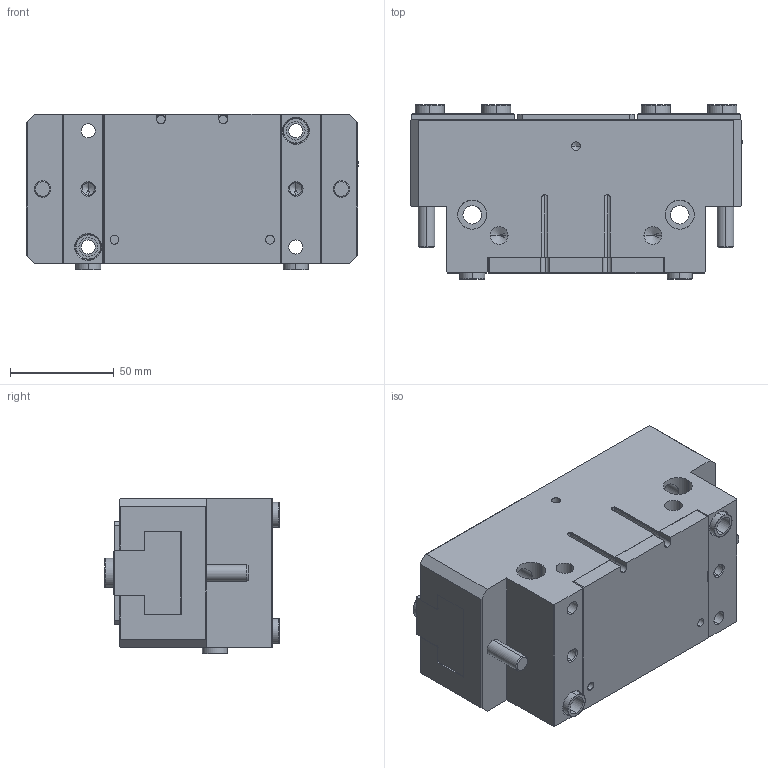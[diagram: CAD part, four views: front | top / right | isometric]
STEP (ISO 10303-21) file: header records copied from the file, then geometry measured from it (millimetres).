
FILE_DESCRIPTION (( 'STEP AP203' ), '1' );
FILE_NAME ('OPP-160-C1-原始檔-組合-W106.04.20.STEP', '2017-04-20T01:08:10', ( 'DanyaoCAD' ), ( '' ), 'SwSTEP 2.0', 'SolidWorks 2016', '' );
FILE_SCHEMA (( 'CONFIG_CONTROL_DESIGN' ));
Length unit declared in the file: millimetre
Products named in the file (7): Boccola _2; Fondello; Griffa; Boccola _4; Corpo; Coperchio; OPP-160-C1-原始檔-組合-W106.04.20
Assembly tree (13 placements, depth 2):
  OPP-160-C1-原始檔-組合-W106.04.20
    Boccola _2  x4
    Fondello
    Griffa  x2
    Boccola _4  x4
    Corpo
    Coperchio
Bounding box: 160 x 84 x 75 mm (x, y, z)
Volume: 728591.9 mm3; surface area: 136897.8 mm2
Topology: 13 solids, 13 shells, 1182 faces, 3200 edges, 2082 vertices
Faces by surface type: bspline 672, plane 306, cylinder 140, cone 64
Entity records: 51936 total; most frequent: CARTESIAN_POINT 27930, ORIENTED_EDGE 5894, EDGE_CURVE 2947, DIRECTION 2763, VERTEX_POINT 1948, LINE 1385, VECTOR 1385, B_SPLINE_CURVE_WITH_KNOTS 1314
